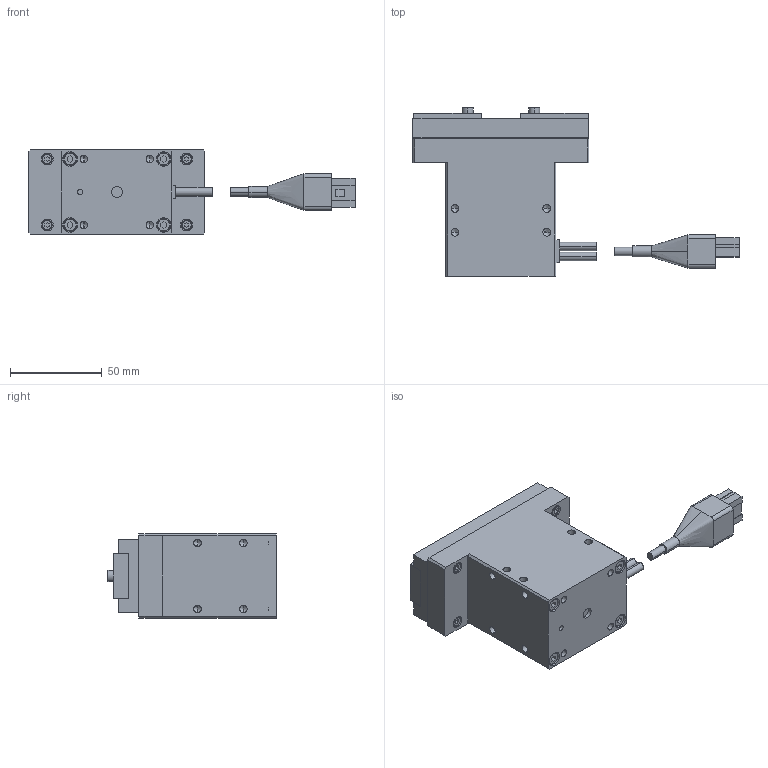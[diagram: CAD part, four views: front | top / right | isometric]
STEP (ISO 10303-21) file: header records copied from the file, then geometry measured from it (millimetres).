
FILE_DESCRIPTION (( 'STEP AP214' ), '1' );
FILE_NAME ('ESG1-SD-4220.STEP', '2009-02-12T08:24:41', ( '風音庵' ), ( '' ), 'SwSTEP 2.0', 'SolidWorks 2007', '' );
FILE_SCHEMA (( 'AUTOMOTIVE_DESIGN' ));
Length unit declared in the file: millimetre
Products named in the file (6): CNNECTOR丂BB丂ASSY_棉太倌; ESG1-SD-4220 BODY_蹬怮椔; ESG1-SD-4220 FINGER_蹬怮椔; CONNECTOR　DK-2100D-12R_ﾃﾞﾌｫﾙﾄ; ESG1-SD-4220; CONNECTOR COVER　BB_ﾃﾞﾌｫﾙﾄ
Assembly tree (6 placements, depth 3):
  ESG1-SD-4220
    CNNECTOR丂BB丂ASSY_棉太倌
      CONNECTOR COVER　BB_ﾃﾞﾌｫﾙﾄ
      CONNECTOR　DK-2100D-12R_ﾃﾞﾌｫﾙﾄ
    ESG1-SD-4220 FINGER_蹬怮椔  x2
    ESG1-SD-4220 BODY_蹬怮椔
Bounding box: 177.89 x 92 x 46 mm (x, y, z)
Volume: 276739.1 mm3; surface area: 47997.9 mm2
Topology: 5 solids, 5 shells, 418 faces, 1014 edges, 634 vertices
Faces by surface type: plane 244, cylinder 112, cone 60, bspline 2
Entity records: 16180 total; most frequent: CARTESIAN_POINT 2375, DIRECTION 1956, ORIENTED_EDGE 1856, EDGE_CURVE 928, VECTOR 702, LINE 702, AXIS2_PLACEMENT_3D 627, VERTEX_POINT 604
